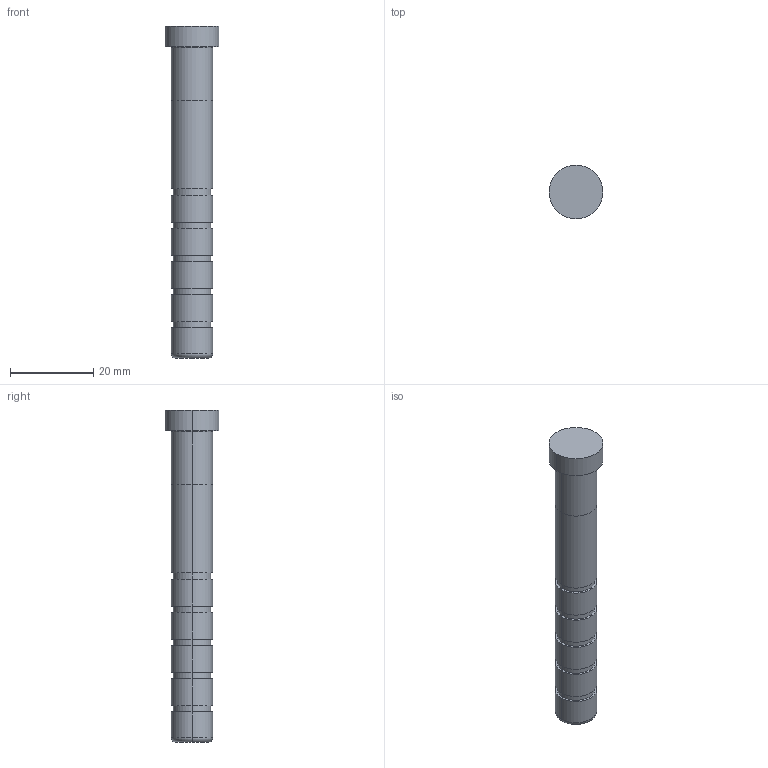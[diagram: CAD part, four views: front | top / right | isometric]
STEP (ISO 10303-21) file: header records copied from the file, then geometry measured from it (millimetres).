
FILE_DESCRIPTION(/* description */ (''),/* implementation_level */ '2;1');
FILE_NAME(/* name */ '3d_sgoh10-80_05220_r00.stp',/* time_stamp */ '2011-01-10T14:11:10+09:00',/* author */ ('MISUMI'),/* organization */ (''),/* preprocessor_version */ 'ST-DEVELOPER v11',/* originating_system */ 'UGS - NX 5.0',/* authorisation */ '');
FILE_SCHEMA (('CONFIG_CONTROL_DESIGN'));
Length unit declared in the file: millimetre
Products named in the file (1): 3d_sgoh10-80_05220_r00
Bounding box: 13 x 13 x 80 mm (x, y, z)
Volume: 6436.2 mm3; surface area: 2934.3 mm2
Topology: 1 solids, 1 shells, 43 faces, 84 edges, 54 vertices
Faces by surface type: cylinder 26, plane 13, torus 4
Entity records: 1214 total; most frequent: DIRECTION 230, CARTESIAN_POINT 182, ORIENTED_EDGE 168, AXIS2_PLACEMENT_3D 102, EDGE_CURVE 84, CIRCLE 58, EDGE_LOOP 54, VERTEX_POINT 54
